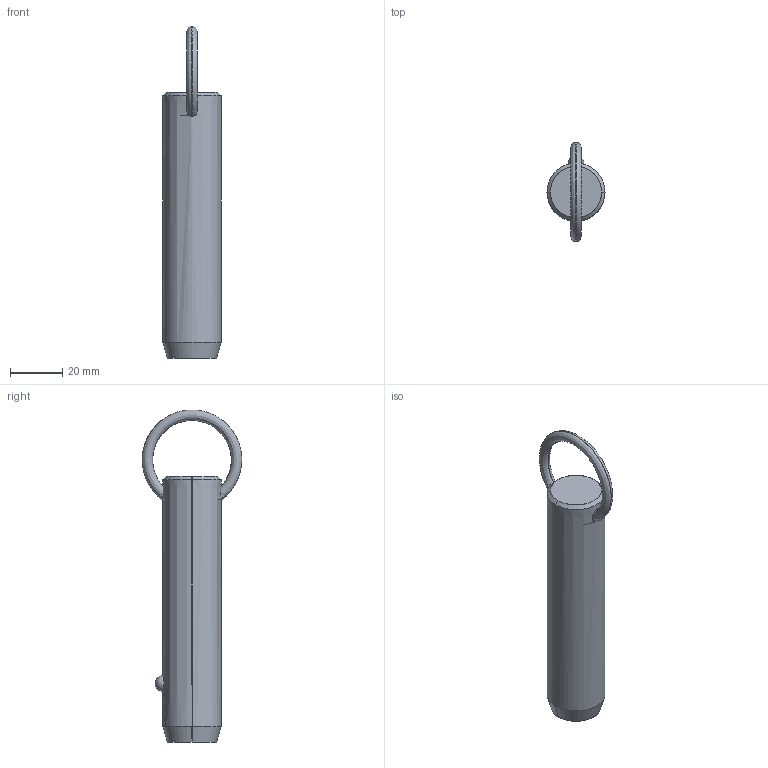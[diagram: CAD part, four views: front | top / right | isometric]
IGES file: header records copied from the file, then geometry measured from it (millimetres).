
Start section: SolidWorks IGES file using analytic representation for surfaces
Global section: file name: C:\Users\liam_\OneDrive\Documents\WORK\Work for WixRoyd\Job Files\J-00019 - Matt Davis CAD Checking\04. CAD Drawings\automotion20190605\P1250.2_v2\P1250.2_v2_20190729_IGES\P1250.087-250.igs; native system: SolidWorks 2017; preprocessor: SolidWorks 2017; author: liam_; date: 190730.000735; units: millimetre
Bounding box: 22.2 x 38.1 x 126.99 mm (x, y, z)
Surface area: 8729.7 mm2 (no closed solid volume)
Topology: 0 solids, 0 shells, 12 faces, 302 edges, 300 vertices
Faces by surface type: revolution 8, bspline 4
